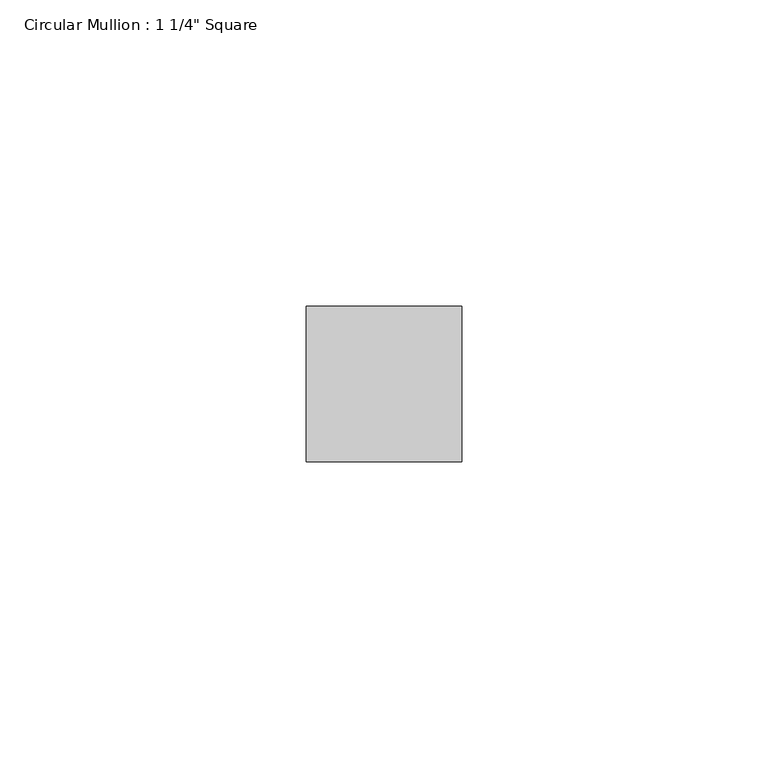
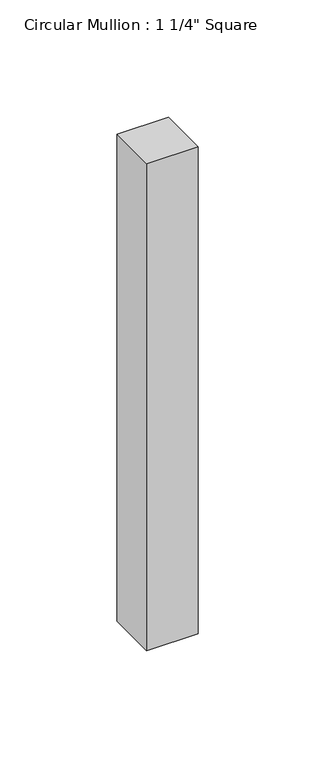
"""IFC4 building model written with IfcOpenShell, lengths in millimetres: member geometry."""

from ifc_helpers import new_model, si_unit, frame, origin, place, context, project, spatial, polyline, outline, extrude, source, transform, mapped, element, save


def member_62f8fa83(model_context):
    return source(origin(), model_context, "Body", "SweptSolid", [
        extrude(outline(polyline([(0.0, 12.7), (0.0, -12.7), (-25.4, -12.7), (-25.4, 12.7), (0.0, 12.7)])), frame((0.0, 0.0, -253.9999997), z_axis=(0.0, 0.0, 1.0), x_axis=(1.0, 0.0, 0.0)), (0.0, 0.0, 1.0), 253.9999997),
    ])


if __name__ == "__main__":
    model = new_model("IFC4")
    model_context = context("Model", 3, world=origin())
    ifc_project = project(units=[si_unit("LENGTHUNIT", "METRE", prefix="MILLI")], contexts=[model_context])
    site = spatial("IfcSite", under=ifc_project)
    building = spatial("IfcBuilding", under=site)
    placement = place(None, origin())
    member_shape = member_62f8fa83(model_context)
    element("IfcMember", 1, ObjectType="Circular Mullion : 1 1/4\" Square", at=placement, inside=building, context=model_context, shape_type="MappedRepresentation", body=[
        mapped(member_shape, transform((0.0, 0.0, 0.0), x_axis=(1.0, 0.0, 0.0), y_axis=(0.0, 1.0, 0.0), z_axis=(0.0, 0.0, 1.0))),
    ])
    save(model, "model.ifc")
